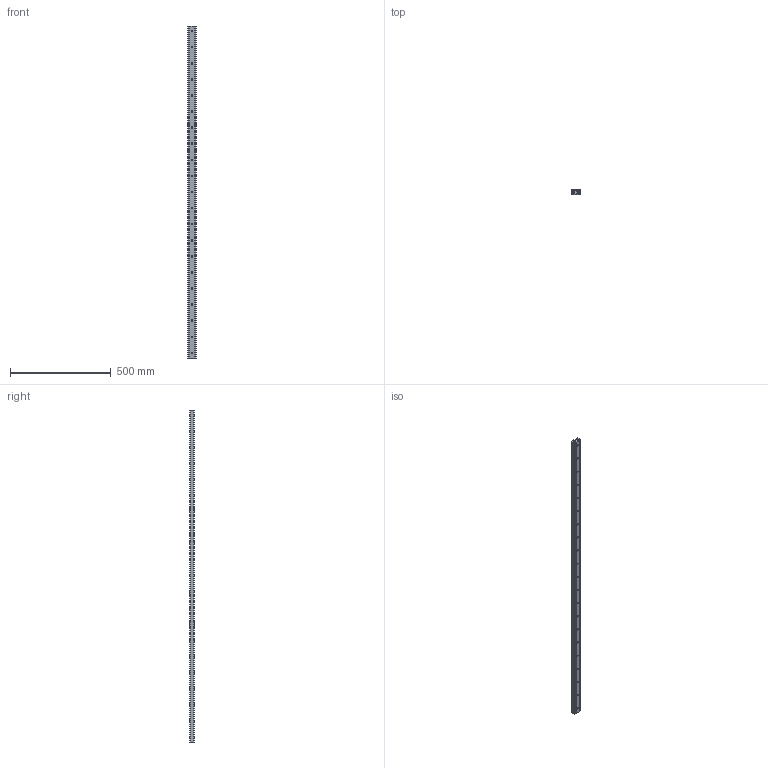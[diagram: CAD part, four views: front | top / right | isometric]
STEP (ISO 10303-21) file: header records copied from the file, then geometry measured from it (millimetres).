
FILE_DESCRIPTION(('STEP AP214'),'1');
FILE_NAME('rail_asn43-1650_00.stp','2017-06-06T10:18:08',('TraceParts'),('TraceParts S.A.'),'Spatial InterOp 3D',' ',' ');
FILE_SCHEMA(('automotive_design'));
Length unit declared in the file: millimetre
Products named in the file (2): rail_asn43-1650_00_1; rail_asn43-1650_00_2
Bounding box: 43 x 22.01 x 1650 mm (x, y, z)
Volume: 1004253.9 mm3; surface area: 388146 mm2
Topology: 2 solids, 2 shells, 287 faces, 708 edges, 430 vertices
Faces by surface type: cone 126, cylinder 115, plane 46
Entity records: 8688 total; most frequent: DIRECTION 1642, CARTESIAN_POINT 1427, ORIENTED_EDGE 1416, EDGE_CURVE 708, AXIS2_PLACEMENT_3D 645, VERTEX_POINT 430, EDGE_LOOP 376, CIRCLE 356
